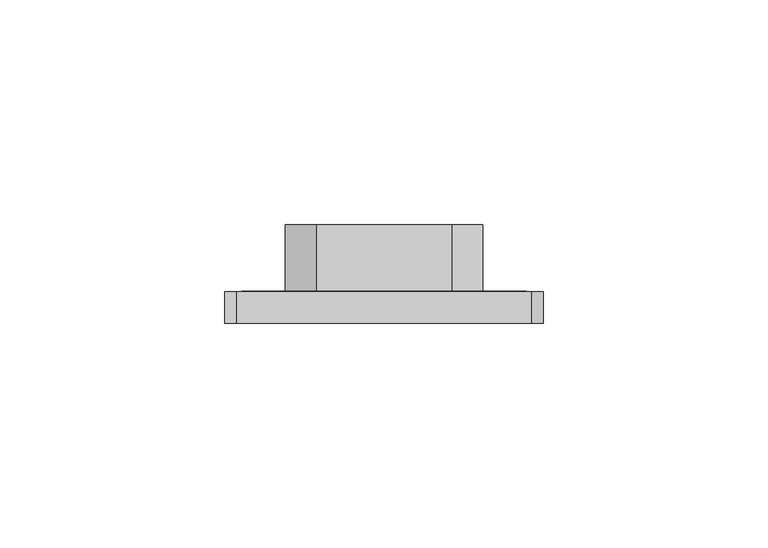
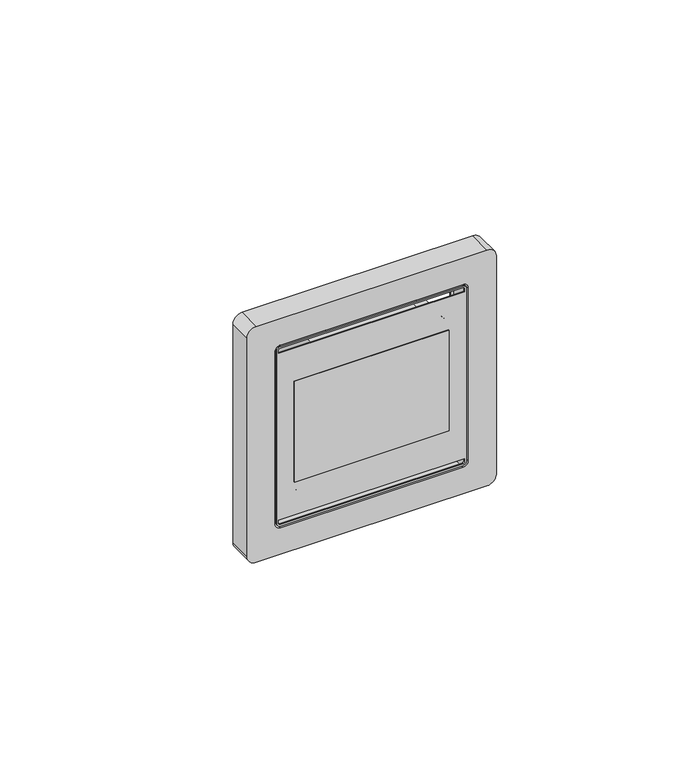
"""IFC4 building model written with IfcOpenShell, lengths in millimetres: proxy geometry, Cala Touch KNX : Cala Touch KNX AQS/TH 3.x, reinweiß RAL 9010."""

import ifcopenshell
import ifcopenshell.guid

model = None  # the IFC model being written
_history = None  # IfcOwnerHistory: only IFC2X3 demands one
_inside = {}  # id of a spatial element -> (the spatial element, [elements in it])
_under = {}  # id of a project, library or spatial element -> (it, [spatial elements below it])
_declared = {}  # id of a project -> (the project, [libraries it declares])
_typed = {}  # id of a type object -> (the type object, [elements of that type])
_made_of = {}  # id of a material, layer set ... -> (it, [elements and type objects made of it])


def new_model(schema):
    """Start an empty IFC model of exactly this schema.

    Asked for "IFC4X3", IfcOpenShell would pick the latest addendum, in which some entities
    have other attributes; the version numbers below select the first issue.
    IFC2X3 requires an IfcOwnerHistory on every rooted entity: one is made here for all.
    """
    global model, _history
    if schema == "IFC4X3":
        model = ifcopenshell.file(schema_version=(4, 3, 0, 0))
    else:
        model = ifcopenshell.file(schema=schema)
    _inside.clear()
    _under.clear()
    _declared.clear()
    _typed.clear()
    _made_of.clear()
    _history = None
    if model.schema == "IFC2X3":
        org = make("IfcOrganization", Name="unknown")
        user = make(
            "IfcPersonAndOrganization",
            ThePerson=make("IfcPerson", FamilyName="unknown"),
            TheOrganization=org,
        )
        app = make(
            "IfcApplication",
            ApplicationDeveloper=org,
            Version="unknown",
            ApplicationFullName="unknown",
            ApplicationIdentifier="unknown",
        )
        _history = make(
            "IfcOwnerHistory",
            OwningUser=user,
            OwningApplication=app,
            ChangeAction="ADDED",
            CreationDate=0,
        )
    return model


def make(cls, **values):
    """One entity of the class cls with the attributes given. An attribute that is None is left unset."""
    return model.create_entity(
        cls, **{name: value for name, value in values.items() if value is not None}
    )


def rooted(cls, **values):
    """An entity with a GlobalId (a new one), such as an element, a storey or a relation."""
    return make(cls, GlobalId=ifcopenshell.guid.new(), OwnerHistory=_history, **values)


def si_unit(unit_type, name, prefix=None):
    """IfcSIUnit, for example si_unit("LENGTHUNIT", "METRE", prefix="MILLI")."""
    return make("IfcSIUnit", UnitType=unit_type, Prefix=prefix, Name=name)


def assignment(units):
    """IfcUnitAssignment: the units of a project."""
    return None if units is None else make("IfcUnitAssignment", Units=units)


def point(xyz):
    """IfcCartesianPoint."""
    return None if xyz is None else make("IfcCartesianPoint", Coordinates=xyz)


def direction(xyz):
    """IfcDirection."""
    return None if xyz is None else make("IfcDirection", DirectionRatios=xyz)


def frame(location, z_axis=None, x_axis=None):
    """IfcAxis2Placement3D, a coordinate frame: its origin and axes. An axis left out is left unset."""
    return make(
        "IfcAxis2Placement3D",
        Location=point(location),
        Axis=direction(z_axis),
        RefDirection=direction(x_axis),
    )


def frame_2d(location, x_axis=None):
    """IfcAxis2Placement2D, a coordinate frame in the plane: its origin and x axis."""
    return make(
        "IfcAxis2Placement2D", Location=point(location), RefDirection=direction(x_axis)
    )


def origin():
    """The frame at (0, 0, 0) with its axes left unset."""
    return frame((0.0, 0.0, 0.0))


def place(relative_to, where):
    """IfcLocalPlacement: puts the frame where relative to a parent placement (None: the world)."""
    return make(
        "IfcLocalPlacement", PlacementRelTo=relative_to, RelativePlacement=where
    )


def context(
    kind, dimensions, precision=None, world=None, true_north=None, identifier=None
):
    """IfcGeometricRepresentationContext, for example the 3D "Model" context."""
    return make(
        "IfcGeometricRepresentationContext",
        ContextIdentifier=identifier,
        ContextType=kind,
        CoordinateSpaceDimension=dimensions,
        Precision=precision,
        WorldCoordinateSystem=world,
        TrueNorth=true_north,
    )


def project(units=None, contexts=None):
    """IfcProject with its units and contexts."""
    return rooted(
        "IfcProject",
        Name="project",
        RepresentationContexts=contexts,
        UnitsInContext=assignment(units),
    )


def spatial(cls, under=None, at=None, **own):
    """A site, building, storey or space (cls), placed at a placement, below another one or the project."""
    s = rooted(cls, ObjectPlacement=at, **own)
    if under is not None:
        _under.setdefault(under.id(), (under, []))[1].append(s)
    return s


def polyline(points):
    """IfcPolyline through the points."""
    return make("IfcPolyline", Points=[point(p) for p in points])


def circle_curve(where, radius):
    """IfcCircle in the frame where."""
    return make("IfcCircle", Position=where, Radius=radius)


def trimmed(basis, trim1, trim2, sense, master):
    """IfcTrimmedCurve: the piece of a basis curve between two trims."""
    return make(
        "IfcTrimmedCurve",
        BasisCurve=basis,
        Trim1=trim1,
        Trim2=trim2,
        SenseAgreement=sense,
        MasterRepresentation=master,
    )


def segment(curve, same_sense, transition):
    """IfcCompositeCurveSegment."""
    return make(
        "IfcCompositeCurveSegment",
        Transition=transition,
        SameSense=same_sense,
        ParentCurve=curve,
    )


def composite_curve(segments, self_intersect=None):
    """IfcCompositeCurve: segments joined end to end."""
    return make("IfcCompositeCurve", Segments=segments, SelfIntersect=self_intersect)


def outline(outer, holes=None, kind="AREA"):
    """IfcArbitraryClosedProfileDef: a profile drawn as a closed curve; with holes, ...WithVoids."""
    if holes is None:
        return make("IfcArbitraryClosedProfileDef", ProfileType=kind, OuterCurve=outer)
    return make(
        "IfcArbitraryProfileDefWithVoids",
        ProfileType=kind,
        OuterCurve=outer,
        InnerCurves=holes,
    )


def extrude(swept, where, along, depth):
    """IfcExtrudedAreaSolid: the profile swept, set in the frame where, extruded along a direction by depth."""
    return make(
        "IfcExtrudedAreaSolid",
        SweptArea=swept,
        Position=where,
        ExtrudedDirection=direction(along),
        Depth=depth,
    )


def shape(context_of_items, identifier, shape_type, items):
    """IfcShapeRepresentation: the items that make up one representation, for example the "Body"."""
    return make(
        "IfcShapeRepresentation",
        ContextOfItems=context_of_items,
        RepresentationIdentifier=identifier,
        RepresentationType=shape_type,
        Items=items,
    )


def source(mapping_origin, context_of_items, identifier, shape_type, items):
    """IfcRepresentationMap: a shape defined once, which mapped items show again and again."""
    return make(
        "IfcRepresentationMap",
        MappingOrigin=mapping_origin,
        MappedRepresentation=shape(context_of_items, identifier, shape_type, items),
    )


def transform(
    local_origin,
    x_axis=None,
    y_axis=None,
    z_axis=None,
    scale=None,
    scale2=None,
    scale3=None,
    uniform=True,
):
    """IfcCartesianTransformationOperator3D, or its non-uniform kind. x_axis, y_axis, z_axis: its Axis1, 2, 3."""
    if uniform:
        return make(
            "IfcCartesianTransformationOperator3D",
            Axis1=direction(x_axis),
            Axis2=direction(y_axis),
            LocalOrigin=point(local_origin),
            Scale=scale,
            Axis3=direction(z_axis),
        )
    return make(
        "IfcCartesianTransformationOperator3DnonUniform",
        Axis1=direction(x_axis),
        Axis2=direction(y_axis),
        LocalOrigin=point(local_origin),
        Scale=scale,
        Axis3=direction(z_axis),
        Scale2=scale2,
        Scale3=scale3,
    )


def mapped(mapping_source, mapping_target):
    """IfcMappedItem: shows the shape of a source again, moved by a transform."""
    return make(
        "IfcMappedItem", MappingSource=mapping_source, MappingTarget=mapping_target
    )


def made_of(thing, what):
    """Note that an element or type object is made of a material, layer set ...; save() writes the relation."""
    if what is not None:
        _made_of.setdefault(what.id(), (what, []))[1].append(thing)
    return thing


def element(
    cls,
    number,
    at=None,
    inside=None,
    cuts=None,
    type_object=None,
    material=None,
    context=None,
    identifier="Body",
    shape_type=None,
    held_by="IfcProductDefinitionShape",
    body=None,
    shapes=None,
    **own,
):
    """One element of the class cls, such as IfcWall. Its Tag is "e" and its number.

    at: its placement. inside: the storey or other place that contains it. cuts: it is an
    opening in that element (IfcRelVoidsElement). A single representation is given by context,
    identifier, shape_type and body (its items); several are given by shapes. held_by: the class
    of the entity that holds the representations. save() writes the other relations.
    """
    e = rooted(cls, Tag="e%d" % number, ObjectPlacement=at, **own)
    if body is not None:
        shapes = [shape(context, identifier, shape_type, body)]
    if shapes is not None:
        e.Representation = make(held_by, Representations=shapes)
    if inside is not None:
        _inside.setdefault(inside.id(), (inside, []))[1].append(e)
    if cuts is not None:
        rooted(
            "IfcRelVoidsElement", RelatingBuildingElement=cuts, RelatedOpeningElement=e
        )
    if type_object is not None:
        _typed.setdefault(type_object.id(), (type_object, []))[1].append(e)
    return made_of(e, material)


def aggregate(whole, parts):
    """IfcRelAggregates: a whole, such as a stair, and the parts it consists of."""
    return rooted("IfcRelAggregates", RelatingObject=whole, RelatedObjects=parts)


def save(model, path):
    """Write the relations noted so far, then the file.

    IfcRelAggregates (storeys below a building ...), IfcRelContainedInSpatialStructure (elements
    in a storey), IfcRelDefinesByType, IfcRelAssociatesMaterial and IfcRelDeclares: one each for
    every whole, place, type object, material and project.
    """
    for whole, parts in _under.values():
        aggregate(whole, parts)
    for where, things in _inside.values():
        rooted(
            "IfcRelContainedInSpatialStructure",
            RelatedElements=things,
            RelatingStructure=where,
        )
    for kind, things in _typed.values():
        rooted("IfcRelDefinesByType", RelatedObjects=things, RelatingType=kind)
    for what, things in _made_of.values():
        rooted("IfcRelAssociatesMaterial", RelatedObjects=things, RelatingMaterial=what)
    for by, libraries in _declared.values():
        rooted("IfcRelDeclares", RelatingContext=by, RelatedDefinitions=libraries)
    model.write(path)


def plane_surface(at):
    """IfcPlane: the flat surface through the origin of the frame at, square to its z axis."""
    return make("IfcPlane", Position=at)


def cylinder_surface(at, radius):
    """IfcCylindricalSurface: all points at the distance radius from the z axis of the frame at."""
    return make("IfcCylindricalSurface", Position=at, Radius=radius)


def revolved_surface(curve, axis_point, axis_direction):
    """IfcSurfaceOfRevolution: the curve turned about the line through axis_point along axis_direction."""
    return make(
        "IfcSurfaceOfRevolution",
        SweptCurve=make("IfcArbitraryOpenProfileDef", ProfileType="CURVE", Curve=curve),
        AxisPosition=make("IfcAxis1Placement", Location=point(axis_point), Axis=direction(axis_direction)),
    )


def advanced_brep(points, edges, surfaces, faces):
    """IfcAdvancedBrep: a solid bounded by faces that lie on surfaces and meet in shared edges.

    An edge is (start, end): straight between two places in points (the first is 0);
    or (start, end, curve); or (start, end, curve, False) where it runs against its curve.
    A face is (place in surfaces, loops), or (place, loops, False) where it looks against
    its surface's normal. A loop lists edges by number (the first is 1), with a minus sign
    where the edge is run from its end to its start. The first loop is the outer one.
    """
    corners = [point(p) for p in points]
    vertices = [make("IfcVertexPoint", VertexGeometry=c) for c in corners]
    made = []
    for start, end, *more in edges:
        made.append(
            make(
                "IfcEdgeCurve",
                EdgeStart=vertices[start],
                EdgeEnd=vertices[end],
                EdgeGeometry=more[0] if more else make("IfcPolyline", Points=[corners[start], corners[end]]),
                SameSense=more[1] if len(more) > 1 else True,
            )
        )
    hull = []
    for where, loops, *sense in faces:
        bounds = []
        for j, loop in enumerate(loops):
            ring = [make("IfcOrientedEdge", EdgeElement=made[abs(k) - 1], Orientation=k > 0) for k in loop]
            bounds.append(
                make(
                    "IfcFaceOuterBound" if j == 0 else "IfcFaceBound",
                    Bound=make("IfcEdgeLoop", EdgeList=ring),
                    Orientation=True,
                )
            )
        hull.append(make("IfcAdvancedFace", Bounds=bounds, FaceSurface=surfaces[where], SameSense=sense[0] if sense else True))
    return make("IfcAdvancedBrep", Outer=make("IfcClosedShell", CfsFaces=hull))


def electrical_fixtures_78d2294f(model_context):
    return source(origin(), model_context, "Body", "SolidModel", [
        extrude(outline(composite_curve([segment(trimmed(circle_curve(frame_2d((68.3993065, -32.8993065)), 2.6006935), [point((71.0, -32.8993065))], [point((68.3993065, -35.5))], False, "CARTESIAN"), True, "CONTINUOUS"), segment(polyline([(68.3993065, -35.5), (2.6006935, -35.5)]), True, "CONTINUOUS"), segment(trimmed(circle_curve(frame_2d((2.6006935, -32.8993065)), 2.6006935), [point((2.6006935, -35.5))], [point((0.0, -32.8993065))], False, "CARTESIAN"), True, "CONTINUOUS"), segment(polyline([(0.0, -32.8993065), (0.0, 32.8993065)]), True, "CONTINUOUS"), segment(trimmed(circle_curve(frame_2d((2.6006935, 32.8993065)), 2.6006935), [point((0.0, 32.8993065))], [point((2.6006935, 35.5))], False, "CARTESIAN"), True, "CONTINUOUS"), segment(polyline([(2.6006935, 35.5), (68.3993065, 35.5)]), True, "CONTINUOUS"), segment(trimmed(circle_curve(frame_2d((68.3993065, 32.8993065)), 2.6006935), [point((68.3993065, 35.5))], [point((71.0, 32.8993065))], False, "CARTESIAN"), True, "CONTINUOUS"), segment(polyline([(71.0, 32.8993065), (71.0, -32.8993065)]), True, "CONTINUOUS")], self_intersect=False), holes=[composite_curve([segment(polyline([(63.0, -25.9768966), (63.0, 25.9768966)]), True, "CONTINUOUS"), segment(trimmed(circle_curve(frame_2d((61.4768966, 25.9768966)), 1.5231034), [point((63.0, 25.9768966))], [point((61.4768966, 27.5))], True, "CARTESIAN"), True, "CONTINUOUS"), segment(polyline([(61.4768966, 27.5), (9.5231034, 27.5)]), True, "CONTINUOUS"), segment(trimmed(circle_curve(frame_2d((9.5231034, 25.9768966)), 1.5231034), [point((9.5231034, 27.5))], [point((8.0, 25.9768966))], True, "CARTESIAN"), True, "CONTINUOUS"), segment(polyline([(8.0, 25.9768966), (8.0, -25.9768966)]), True, "CONTINUOUS"), segment(trimmed(circle_curve(frame_2d((9.5231034, -25.9768966)), 1.5231034), [point((8.0, -25.9768966))], [point((9.5231034, -27.5))], True, "CARTESIAN"), True, "CONTINUOUS"), segment(polyline([(9.5231034, -27.5), (61.4768966, -27.5)]), True, "CONTINUOUS"), segment(trimmed(circle_curve(frame_2d((61.4768966, -25.9768966)), 1.5231034), [point((61.4768966, -27.5))], [point((63.0, -25.9768966))], True, "CARTESIAN"), True, "CONTINUOUS")], self_intersect=False)]), frame((0.0, -7.0, 0.0), z_axis=(0.0, 1.0, 0.0), x_axis=(0.0, 0.0, 1.0)), (0.0, 0.0, 1.0), 7.0),
        extrude(outline(polyline([(67.2, -27.5), (63.0, -31.7), (8.0, -31.7), (3.75, -27.5), (3.75, 27.5), (8.0, 31.7), (63.0, 31.7), (67.2, 27.5), (67.2, -27.5)]), holes=[polyline([(62.0, -22.0), (62.0, 22.0), (57.5323443, 26.5), (13.4676557, 26.5), (9.0, 22.0), (9.0, -22.0), (13.4676557, -26.5), (57.5323443, -26.5), (62.0, -22.0)])]), frame((0.0, 0.0, 0.0), z_axis=(0.0, 1.0, 0.0), x_axis=(0.0, 0.0, 1.0)), (0.0, 0.0, 1.0), 0.2),
        extrude(outline(polyline([(22.0, -7.0), (-22.0, -7.0), (-22.0, -6.7936824), (22.0, -6.7936824), (22.0, -7.0)])), frame((0.0, 0.0, 20.35), z_axis=(0.0, 0.0, 1.0), x_axis=(1.0, 0.0, 0.0)), (0.0, 0.0, 1.0), 30.3),
        extrude(outline(composite_curve([segment(polyline([(20.35, 22.0), (50.65, 22.0)]), True, "CONTINUOUS"), segment(trimmed(circle_curve(frame_2d((50.65, 15.1176557)), 6.8823443), [point((50.65, 22.0))], [point((57.5323443, 15.1176557))], False, "CARTESIAN"), True, "CONTINUOUS"), segment(polyline([(57.5323443, 15.1176557), (57.5323443, -15.1176557)]), True, "CONTINUOUS"), segment(trimmed(circle_curve(frame_2d((50.65, -15.1176557)), 6.8823443), [point((57.5323443, -15.1176557))], [point((50.65, -22.0))], False, "CARTESIAN"), True, "CONTINUOUS"), segment(polyline([(50.65, -22.0), (20.35, -22.0)]), True, "CONTINUOUS"), segment(trimmed(circle_curve(frame_2d((20.35, -15.1176557)), 6.8823443), [point((20.35, -22.0))], [point((13.4676557, -15.1176557))], False, "CARTESIAN"), True, "CONTINUOUS"), segment(polyline([(13.4676557, -15.1176557), (13.4676557, 15.1176557)]), True, "CONTINUOUS"), segment(trimmed(circle_curve(frame_2d((20.35, 15.1176557)), 6.8823443), [point((13.4676557, 15.1176557))], [point((20.35, 22.0))], False, "CARTESIAN"), True, "CONTINUOUS")], self_intersect=False)), frame((0.0, -6.6, 0.0), z_axis=(0.0, 1.0, 0.0), x_axis=(0.0, 0.0, 1.0)), (0.0, 0.0, 1.0), 21.6),
        advanced_brep(
        [(25.9768966, -7.0, 62.5), (-25.9768966, -7.0, 62.5), (-27.0, -7.0, 61.4768966), (-27.0, -7.0, 9.5231034), (-25.9768966, -7.0, 8.5), (25.9768966, -7.0, 8.5), (27.0, -7.0, 9.5231034), (27.0, -7.0, 61.4768966), (-26.5, -7.0, 61.4768966), (-25.9768966, -7.0, 62.0), (25.9768966, -7.0, 62.0), (26.5, -7.0, 61.4768966), (26.5, -7.0, 60.65), (-26.5, -7.0, 60.65), (25.9768966, -7.0, 9.0), (-25.9768966, -7.0, 9.0), (-26.5, -7.0, 9.5231034), (-26.5, -7.0, 10.35), (26.5, -7.0, 10.35), (26.5, -7.0, 9.5231034), (22.0, -7.0, 50.65), (22.0, -7.0, 20.35), (-22.0, -7.0, 20.35), (-22.0, -7.0, 50.65), (25.9768966, -6.6, 62.5), (27.0, -6.6, 61.4768966), (27.0, -6.6, 9.5231034), (25.9768966, -6.6, 8.5), (-25.9768966, -6.6, 8.5), (-27.0, -6.6, 9.5231034), (-27.0, -6.6, 61.4768966), (-25.9768966, -6.6, 62.5), (-25.9768966, -6.6, 62.0), (-26.5, -6.6, 61.4768966), (-26.5, -6.6, 60.65), (26.5, -6.6, 60.65), (26.5, -6.6, 61.4768966), (25.9768966, -6.6, 62.0), (-25.9768966, -6.6, 9.0), (25.9768966, -6.6, 9.0), (26.5, -6.6, 9.5231034), (26.5, -6.6, 10.35), (-26.5, -6.6, 10.35), (-26.5, -6.6, 9.5231034), (22.0, -6.7936824, 50.65), (-22.0, -6.7936824, 50.65), (-22.0, -6.7936824, 20.35), (22.0, -6.7936824, 20.35)],
        [
            (0, 1),
            (1, 2, circle_curve(frame((-25.9768966, -7.0, 61.4768966), z_axis=(0.0, -1.0, 0.0), x_axis=(1.0, 0.0, 0.0)), 1.0231034)),
            (2, 3),
            (3, 4, circle_curve(frame((-25.9768966, -7.0, 9.5231034), z_axis=(0.0, -1.0, 0.0), x_axis=(1.0, 0.0, 0.0)), 1.0231034)),
            (4, 5),
            (5, 6, circle_curve(frame((25.9768966, -7.0, 9.5231034), z_axis=(0.0, -1.0, 0.0), x_axis=(1.0, 0.0, 0.0)), 1.0231034)),
            (6, 7),
            (7, 0, circle_curve(frame((25.9768966, -7.0, 61.4768966), z_axis=(0.0, -1.0, 0.0), x_axis=(1.0, 0.0, 0.0)), 1.0231034)),
            (8, 9, circle_curve(frame((-25.9768966, -7.0, 61.4768966), z_axis=(0.0, 1.0, 0.0), x_axis=(1.0, 0.0, 0.0)), 0.5231034)),
            (9, 10),
            (10, 11, circle_curve(frame((25.9768966, -7.0, 61.4768966), z_axis=(0.0, 1.0, 0.0), x_axis=(1.0, 0.0, 0.0)), 0.5231034)),
            (11, 12),
            (12, 13),
            (13, 8),
            (14, 15),
            (15, 16, circle_curve(frame((-25.9768966, -7.0, 9.5231034), z_axis=(0.0, 1.0, 0.0), x_axis=(1.0, 0.0, 0.0)), 0.5231034)),
            (16, 17),
            (17, 18),
            (18, 19),
            (19, 14, circle_curve(frame((25.9768966, -7.0, 9.5231034), z_axis=(0.0, 1.0, 0.0), x_axis=(1.0, 0.0, 0.0)), 0.5231034)),
            (20, 21),
            (21, 22),
            (22, 23),
            (23, 20),
            (24, 25, circle_curve(frame((25.9768966, -6.6, 61.4768966), z_axis=(0.0, 1.0, 0.0), x_axis=(1.0, 0.0, 0.0)), 1.0231034)),
            (25, 26),
            (26, 27, circle_curve(frame((25.9768966, -6.6, 9.5231034), z_axis=(0.0, 1.0, 0.0), x_axis=(1.0, 0.0, 0.0)), 1.0231034)),
            (27, 28),
            (28, 29, circle_curve(frame((-25.9768966, -6.6, 9.5231034), z_axis=(0.0, 1.0, 0.0), x_axis=(1.0, 0.0, 0.0)), 1.0231034)),
            (29, 30),
            (30, 31, circle_curve(frame((-25.9768966, -6.6, 61.4768966), z_axis=(0.0, 1.0, 0.0), x_axis=(1.0, 0.0, 0.0)), 1.0231034)),
            (31, 24),
            (32, 33, circle_curve(frame((-25.9768966, -6.6, 61.4768966), z_axis=(0.0, -1.0, 0.0), x_axis=(1.0, 0.0, 0.0)), 0.5231034)),
            (33, 34),
            (34, 35),
            (35, 36),
            (36, 37, circle_curve(frame((25.9768966, -6.6, 61.4768966), z_axis=(0.0, -1.0, 0.0), x_axis=(1.0, 0.0, 0.0)), 0.5231034)),
            (37, 32),
            (38, 39),
            (39, 40, circle_curve(frame((25.9768966, -6.6, 9.5231034), z_axis=(0.0, -1.0, 0.0), x_axis=(1.0, 0.0, 0.0)), 0.5231034)),
            (40, 41),
            (41, 42),
            (42, 43),
            (43, 38, circle_curve(frame((-25.9768966, -6.6, 9.5231034), z_axis=(0.0, -1.0, 0.0), x_axis=(1.0, 0.0, 0.0)), 0.5231034)),
            (0, 24),
            (31, 1),
            (30, 2),
            (29, 3),
            (28, 4),
            (27, 5),
            (26, 6),
            (25, 7),
            (32, 9),
            (8, 33),
            (13, 34),
            (12, 35),
            (11, 36),
            (10, 37),
            (38, 15),
            (14, 39),
            (19, 40),
            (18, 41),
            (17, 42),
            (16, 43),
            (44, 45),
            (45, 46),
            (46, 47),
            (47, 44),
            (47, 21),
            (20, 44),
            (46, 22),
            (45, 23),
        ],
        [
            plane_surface(frame((-25.9768966, -7.0, 62.5), z_axis=(0.0, -1.0, 0.0), x_axis=(-1.0, 0.0, 0.0))),
            plane_surface(frame((-25.9768966, -6.6, 62.5), z_axis=(0.0, 1.0, 0.0), x_axis=(1.0, 0.0, 0.0))),
            plane_surface(frame((25.9768966, -7.0, 62.5), z_axis=(0.0, 0.0, 1.0), x_axis=(0.0, 1.0, 0.0))),
            cylinder_surface(frame((-25.9768966, -6.6, 61.4768966), z_axis=(0.0, -1.0, 0.0), x_axis=(1.0, 0.0, 0.0)), 1.0231034),
            plane_surface(frame((-27.0, -7.0, 61.4768966), z_axis=(-1.0, 0.0, 0.0), x_axis=(0.0, 1.0, 0.0))),
            cylinder_surface(frame((-25.9768966, -6.6, 9.5231034), z_axis=(0.0, -1.0, 0.0), x_axis=(1.0, 0.0, 0.0)), 1.0231034),
            plane_surface(frame((-25.9768966, -7.0, 8.5), z_axis=(0.0, 0.0, -1.0), x_axis=(0.0, 1.0, 0.0))),
            cylinder_surface(frame((25.9768966, -6.6, 9.5231034), z_axis=(0.0, -1.0, 0.0), x_axis=(1.0, 0.0, 0.0)), 1.0231034),
            plane_surface(frame((27.0, -7.0, 9.5231034), z_axis=(1.0, 0.0, 0.0), x_axis=(0.0, 1.0, 0.0))),
            cylinder_surface(frame((25.9768966, -6.6, 61.4768966), z_axis=(0.0, -1.0, 0.0), x_axis=(1.0, 0.0, 0.0)), 1.0231034),
            revolved_surface(polyline([(-25.4537932, -7.0, 61.4768966), (-25.4537932, -6.6, 61.4768966)]), (-25.9768966, 0.0, 61.4768966), (0.0, -1.0, 0.0)),
            plane_surface(frame((-26.5, -7.0, 61.4768966), z_axis=(1.0, 0.0, 0.0), x_axis=(0.0, 1.0, 0.0))),
            plane_surface(frame((-26.5, -7.0, 60.65), z_axis=(0.0, 0.0, 1.0), x_axis=(0.0, 1.0, 0.0))),
            plane_surface(frame((26.5, -7.0, 60.65), z_axis=(-1.0, 0.0, 0.0), x_axis=(0.0, 1.0, 0.0))),
            revolved_surface(polyline([(26.5, -7.0, 61.4768966), (26.5, -6.6, 61.4768966)]), (25.9768966, 0.0, 61.4768966), (0.0, -1.0, 0.0)),
            plane_surface(frame((25.9768966, -7.0, 62.0), z_axis=(0.0, 0.0, -1.0), x_axis=(0.0, 1.0, 0.0))),
            plane_surface(frame((-25.9768966, -7.0, 9.0), z_axis=(0.0, 0.0, 1.0), x_axis=(0.0, 1.0, 0.0))),
            revolved_surface(polyline([(26.5, -7.0, 9.5231034), (26.5, -6.6, 9.5231034)]), (25.9768966, 0.0, 9.5231034), (0.0, -1.0, 0.0)),
            plane_surface(frame((26.5, -7.0, 9.5231034), z_axis=(-1.0, 0.0, 0.0), x_axis=(0.0, 1.0, 0.0))),
            plane_surface(frame((26.5, -7.0, 10.35), z_axis=(0.0, 0.0, -1.0), x_axis=(0.0, 1.0, 0.0))),
            plane_surface(frame((-26.5, -7.0, 10.35), z_axis=(1.0, 0.0, 0.0), x_axis=(0.0, 1.0, 0.0))),
            revolved_surface(polyline([(-25.4537932, -7.0, 9.5231034), (-25.4537932, -6.6, 9.5231034)]), (-25.9768966, 0.0, 9.5231034), (0.0, -1.0, 0.0)),
            plane_surface(frame((22.0, -6.7936824, 50.65), z_axis=(0.0, -1.0, 0.0), x_axis=(0.0, 0.0, -1.0))),
            plane_surface(frame((22.0, -6.7936824, 50.65), z_axis=(-1.0, 0.0, 0.0), x_axis=(0.0, -1.0, 0.0))),
            plane_surface(frame((22.0, -6.7936824, 20.35), z_axis=(0.0, 0.0, 1.0), x_axis=(0.0, -1.0, 0.0))),
            plane_surface(frame((-22.0, -6.7936824, 20.35), z_axis=(1.0, 0.0, 0.0), x_axis=(0.0, -1.0, 0.0))),
            plane_surface(frame((-22.0, -6.7936824, 50.65), z_axis=(0.0, 0.0, -1.0), x_axis=(0.0, -1.0, 0.0))),
        ],
        [
            (0, [[1, 2, 3, 4, 5, 6, 7, 8], [9, 10, 11, 12, 13, 14], [15, 16, 17, 18, 19, 20], [21, 22, 23, 24]]),
            (1, [[25, 26, 27, 28, 29, 30, 31, 32], [33, 34, 35, 36, 37, 38], [39, 40, 41, 42, 43, 44]]),
            (2, [[-1, 45, -32, 46]]),
            (3, [[-2, -46, -31, 47]]),
            (4, [[-3, -47, -30, 48]]),
            (5, [[-4, -48, -29, 49]]),
            (6, [[-5, -49, -28, 50]]),
            (7, [[-6, -50, -27, 51]]),
            (8, [[-7, -51, -26, 52]]),
            (9, [[-8, -52, -25, -45]]),
            (10, [[53, -9, 54, -33]]),
            (11, [[-54, -14, 55, -34]]),
            (12, [[-55, -13, 56, -35]]),
            (13, [[-56, -12, 57, -36]]),
            (14, [[-57, -11, 58, -37]]),
            (15, [[-53, -38, -58, -10]]),
            (16, [[59, -15, 60, -39]]),
            (17, [[-60, -20, 61, -40]]),
            (18, [[-61, -19, 62, -41]]),
            (19, [[-62, -18, 63, -42]]),
            (20, [[-63, -17, 64, -43]]),
            (21, [[-59, -44, -64, -16]]),
            (22, [[65, 66, 67, 68]]),
            (23, [[-68, 69, -21, 70]]),
            (24, [[-67, 71, -22, -69]]),
            (25, [[-66, 72, -23, -71]]),
            (26, [[-65, -70, -24, -72]]),
        ],
    ),
    ])


if __name__ == "__main__":
    model = new_model("IFC4")
    model_context = context("Model", 3, world=origin())
    ifc_project = project(units=[si_unit("LENGTHUNIT", "METRE", prefix="MILLI")], contexts=[model_context])
    site = spatial("IfcSite", under=ifc_project)
    building = spatial("IfcBuilding", under=site)
    placement = place(None, origin())
    electrical_fixtures_shape = electrical_fixtures_78d2294f(model_context)
    element("IfcBuildingElementProxy", 1, Name="Cala Touch KNX : Cala Touch KNX AQS/TH 3.x, reinweiß RAL 9010", ObjectType="Cala Touch KNX : Cala Touch KNX AQS/TH 3.x, reinweiß RAL 9010", at=placement, inside=building, context=model_context, shape_type="MappedRepresentation", body=[
        mapped(electrical_fixtures_shape, transform((0.0, 0.0, 0.0), x_axis=(1.0, 0.0, 0.0), y_axis=(0.0, 1.0, 0.0), z_axis=(0.0, 0.0, 1.0))),
    ])
    save(model, "model.ifc")
